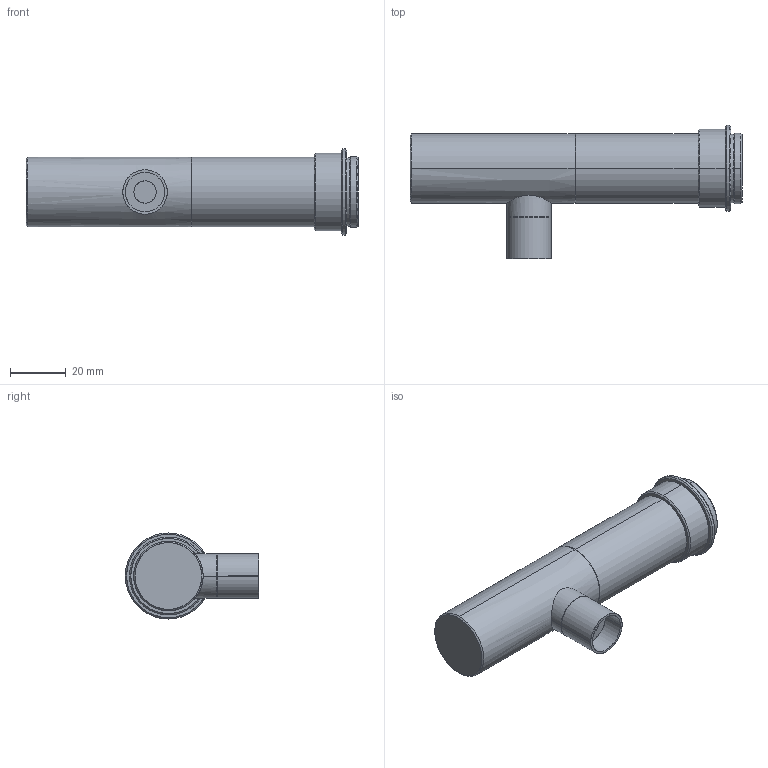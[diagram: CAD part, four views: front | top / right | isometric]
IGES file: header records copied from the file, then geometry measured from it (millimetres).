
Start section: SolidWorks IGES file using analytic representation for surfaces
Bounding box: 119.5 x 48 x 31 mm (x, y, z)
Surface area: 12542.7 mm2 (no closed solid volume)
Topology: 0 solids, 0 shells, 48 faces, 758 edges, 758 vertices
Faces by surface type: revolution 40, bspline 8
